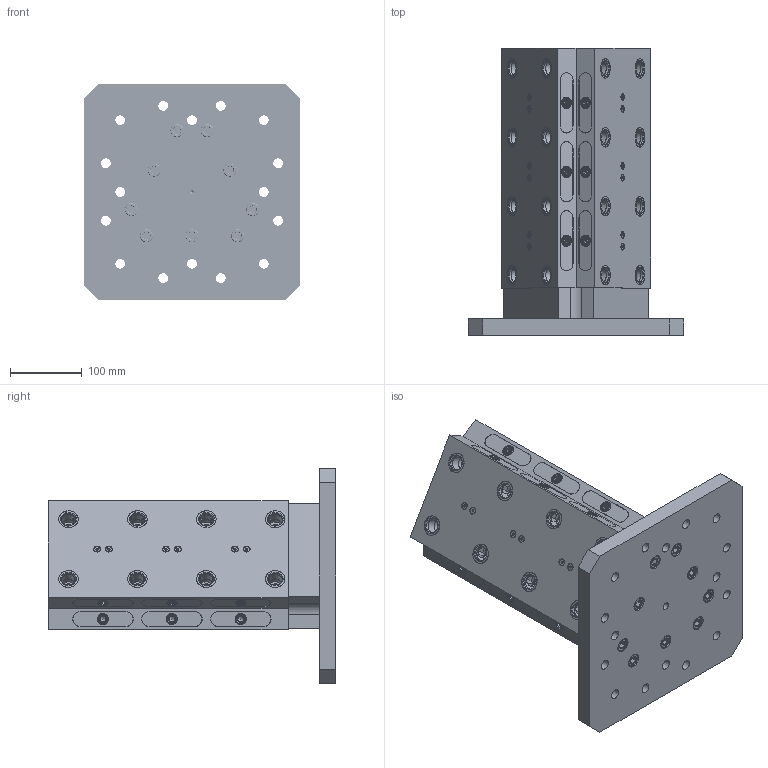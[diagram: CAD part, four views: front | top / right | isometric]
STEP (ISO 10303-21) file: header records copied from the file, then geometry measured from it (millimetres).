
FILE_DESCRIPTION (( 'STEP AP214' ), '1' );
FILE_NAME ('RL96A-3003-400_WEBSITE.step', '2025-08-11T11:17:25', ( '' ), ( '' ), 'SwSTEP 2.0', 'SolidWorks 2025', '' );
FILE_SCHEMA (( 'AUTOMOTIVE_DESIGN' ));
Length unit declared in the file: millimetre
Products named in the file (11): RL96-3003BA_WEBSITE; RL96-2R_WEBSITE_PLATING; MT-3337A_WEBSITE_MILL OP 1&2; RL96-3_WEBSITE_PLATING; 91290A628_Black-Oxide Alloy Steel Socket Head Screw_WEBSITE_91290A628; 91595A640_METRIC ALLOY STEEL DOWEL PIN_WEBSITE_91595A640; HW27X20.DB_WEBSITE_PLATING; RL96-2L_WEBSITE; RL96-3003-337A_WEBSITE; RL96A-3003-400_WEBSITE; SB54_WEBSITE_FINISHED PART
Assembly tree (83 placements, depth 3):
  RL96A-3003-400_WEBSITE
    RL96-3003-337A_WEBSITE
      MT-3337A_WEBSITE_MILL OP 1&2
      RL96-3003BA_WEBSITE
      91290A628_Black-Oxide Alloy Steel Socket Head Screw_WEBSITE_91290A628  x9
      91595A640_METRIC ALLOY STEEL DOWEL PIN_WEBSITE_91595A640  x2
    RL96-2L_WEBSITE  x9
    RL96-2R_WEBSITE_PLATING  x9
    RL96-3_WEBSITE_PLATING  x9
    HW27X20.DB_WEBSITE_PLATING  x24
    SB54_WEBSITE_FINISHED PART  x18
Bounding box: 300 x 400 x 300 mm (x, y, z)
Volume: 10575455.3 mm3; surface area: 1064059.7 mm2
Topology: 82 solids, 82 shells, 2541 faces, 5848 edges, 3676 vertices
Faces by surface type: plane 1561, cylinder 686, cone 248, torus 42, sphere 4
Full cylindrical faces by diameter (mm): 2.642 x18, 3.3 x18, 4 x18, 4.7 x18, 5 x19, 5.182 x18, 8.204 x18, 9 x18, 9.525 x18, 10 x2, 10.02 x4, 10.025 x1, 10.2 x9, 10.795 x9, 11.938 x24, 12 x9, 12.573 x24, 13.5 x34, 14 x19, 15.748 x18, 18 x9, 19.05 x18, 19.101 x24, 19.99 x9, 20 x25, 20.015 x24, 20.035 x24, 26.982 x24, 26.993 x24, 27.051 x24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
Entity records: 27587 total; most frequent: CARTESIAN_POINT 8215, DIRECTION 4031, ORIENTED_EDGE 3032, AXIS2_PLACEMENT_3D 1741, EDGE_CURVE 1516, EDGE_LOOP 1499, VERTEX_POINT 1177, FACE_OUTER_BOUND 1141
